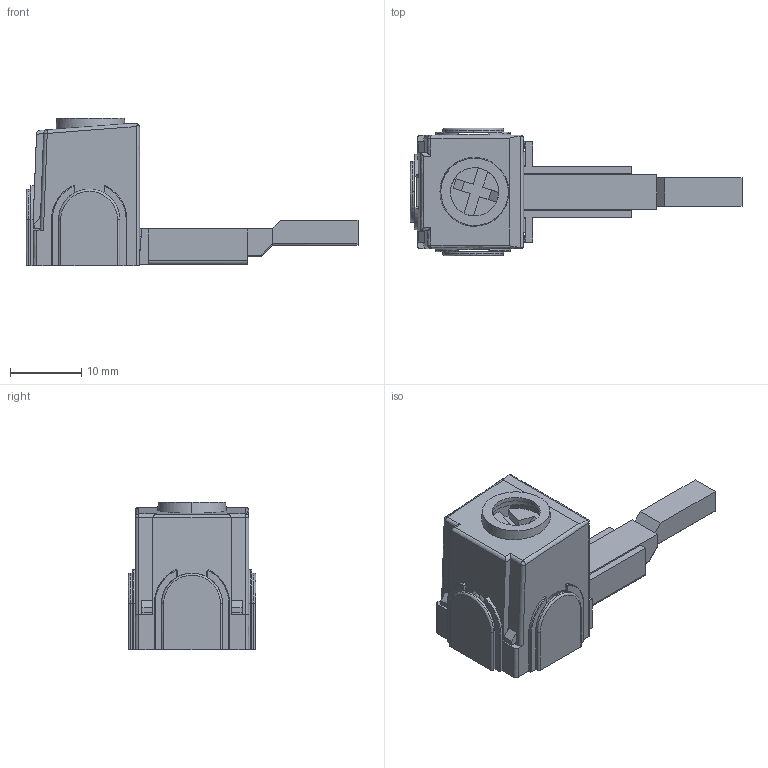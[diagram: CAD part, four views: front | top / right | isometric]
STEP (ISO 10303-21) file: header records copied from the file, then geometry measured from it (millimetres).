
FILE_DESCRIPTION (( 'STEP AP214' ), '1' );
FILE_NAME ('NDH2-63 諉盄傷赽.STEP', '2025-09-12T02:25:30', ( '' ), ( '' ), 'SwSTEP 2.0', 'SolidWorks 2018', '' );
FILE_SCHEMA (( 'AUTOMOTIVE_DESIGN' ));
Length unit declared in the file: millimetre
Products named in the file (1): NDH2-63 諉盄傷赽
Bounding box: 46.75 x 18 x 20.8 mm (x, y, z)
Surface area: 5905.9 mm2 (no closed solid volume)
Topology: 0 solids, 7 shells, 307 faces, 906 edges, 592 vertices
Faces by surface type: bspline 307
Entity records: 15408 total; most frequent: CARTESIAN_POINT 6743, ORIENTED_EDGE 1764, EDGE_CURVE 906, B_SPLINE_CURVE_WITH_KNOTS 811, VERTEX_POINT 592, EDGE_LOOP 314, UNCERTAINTY_MEASURE_WITH_UNIT 312, SURFACE_STYLE_FILL_AREA 311
